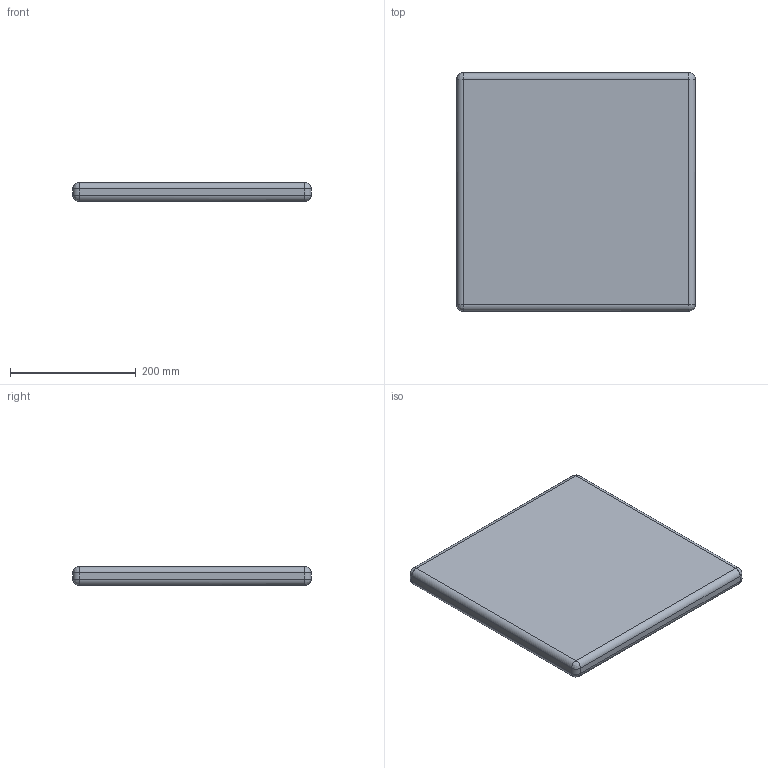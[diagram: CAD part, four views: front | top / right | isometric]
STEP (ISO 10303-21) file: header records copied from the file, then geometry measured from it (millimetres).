
FILE_DESCRIPTION(/* description */ (''),/* implementation_level */ '2;1');
FILE_NAME(/* name */ 'FRAMA_01-Cushion Chair-3D',/* time_stamp */ '2025-11-11T14:05:25+01:00',/* author */ (''),/* organization */ (''),/* preprocessor_version */ 'ST-DEVELOPER v16.5',/* originating_system */ 'Rhino 7.38',/* authorisation */ '');
FILE_SCHEMA (('CONFIG_CONTROL_DESIGN'));
Length unit declared in the file: millimetre
Products named in the file (1): Document
Bounding box: 380 x 380 x 30 mm (x, y, z)
Volume: 4265523.9 mm3; surface area: 320723.9 mm2
Topology: 1 solids, 1 shells, 26 faces, 48 edges, 24 vertices
Faces by surface type: cylinder 12, bspline 8, plane 6
Entity records: 700 total; most frequent: CARTESIAN_POINT 284, ORIENTED_EDGE 96, EDGE_CURVE 48, ADVANCED_FACE 26, FACE_OUTER_BOUND 26, EDGE_LOOP 26, B_SPLINE_CURVE_WITH_KNOTS 24, VERTEX_POINT 24
